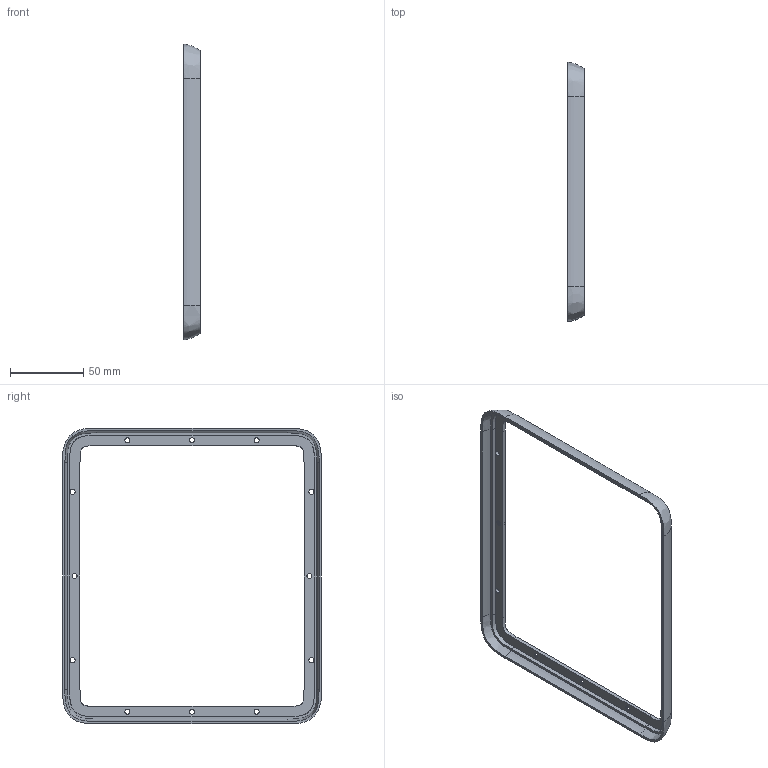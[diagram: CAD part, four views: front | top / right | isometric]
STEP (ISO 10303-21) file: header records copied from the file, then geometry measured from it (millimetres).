
FILE_DESCRIPTION(/* description */ (''),/* implementation_level */ '2;1');
FILE_NAME(/* name */ 'BACK INTERNAL FRAME.step',/* time_stamp */ '2024-02-28T17:30:57Z',/* author */ (''),/* organization */ (''),/* preprocessor_version */ 'ST-DEVELOPER v20',/* originating_system */ 'Autodesk Translation Framework v12.20.1.177',/* authorisation */ '');
FILE_SCHEMA (('AUTOMOTIVE_DESIGN { 1 0 10303 214 3 1 1 }'));
Length unit declared in the file: millimetre
Products named in the file (1): BACK INTERNAL FRAME
Bounding box: 11.6 x 176.8 x 201.8 mm (x, y, z)
Volume: 25815.4 mm3; surface area: 29457.2 mm2
Topology: 1 solids, 1 shells, 66 faces, 184 edges, 122 vertices
Faces by surface type: bspline 34, cylinder 12, plane 12, cone 8
Full cylindrical faces by diameter (mm): 3.5 x12
Entity records: 4116 total; most frequent: CARTESIAN_POINT 2591, ORIENTED_EDGE 368, DIRECTION 190, EDGE_CURVE 184, VERTEX_POINT 122, EDGE_LOOP 94, B_SPLINE_CURVE_WITH_KNOTS 84, FACE_OUTER_BOUND 66
